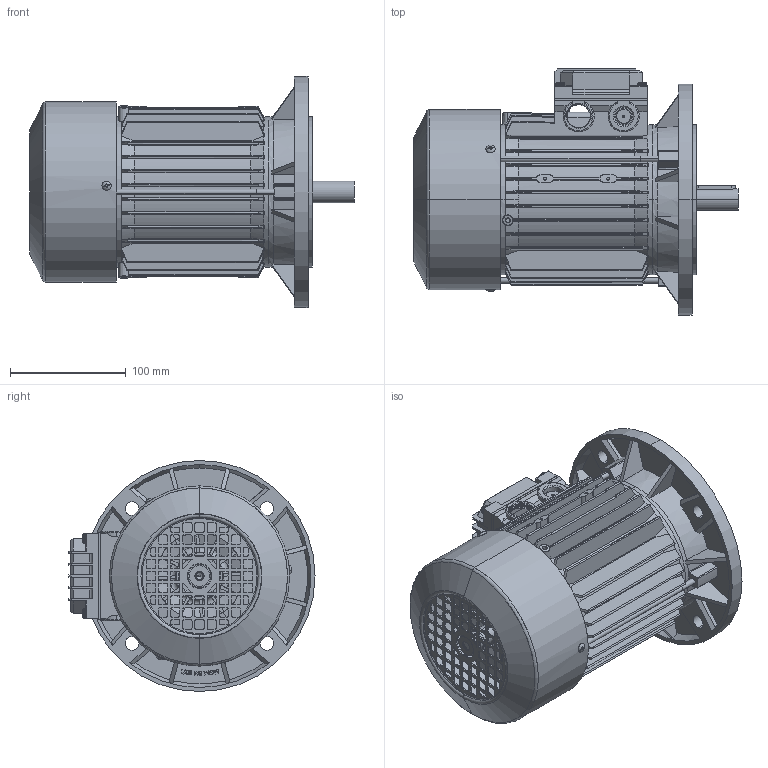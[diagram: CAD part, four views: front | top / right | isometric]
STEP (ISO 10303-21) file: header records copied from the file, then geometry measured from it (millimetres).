
FILE_DESCRIPTION (( 'STEP AP214' ), '1' );
FILE_NAME ('M24DB0010.STEP', '2019-01-31T17:01:52', ( '' ), ( '' ), 'SwSTEP 2.0', 'SolidWorks 2018', '' );
FILE_SCHEMA (( 'AUTOMOTIVE_DESIGN' ));
Length unit declared in the file: millimetre
Products named in the file (13): Guarnizione Scatola Singola 63-71-80; Vite per coperchio morsettiera; Coperchio per Scatola Singola 63-71-80 - DBAN0095; Vite testa rotonda M3; Cuffia SM 80; Chiavetta 80; Albero SM 80; Tirante SM 80; Scudo Lato Comando B3 BA-BM 80 - DCAD0094; Scudo a flangia B5 Fi 200 BA-BM 80; Carcassa 80 B5; M24DB0010; Coperchio per Scatola Singola 63-71-80 con viti
Assembly tree (19 placements, depth 3):
  M24DB0010
    Carcassa 80 B5
    Scudo a flangia B5 Fi 200 BA-BM 80
    Scudo Lato Comando B3 BA-BM 80 - DCAD0094
    Tirante SM 80  x3
    Albero SM 80
    Chiavetta 80
    Cuffia SM 80
    Vite testa rotonda M3  x3
    Coperchio per Scatola Singola 63-71-80 con viti
      Coperchio per Scatola Singola 63-71-80 - DBAN0095
      Vite per coperchio morsettiera  x4
      Guarnizione Scatola Singola 63-71-80
Bounding box: 281 x 213 x 200 mm (x, y, z)
Volume: 870424.1 mm3; surface area: 560457.5 mm2
Topology: 21 solids, 21 shells, 2772 faces, 7569 edges, 4896 vertices
Faces by surface type: plane 1094, cylinder 901, torus 319, cone 272, bspline 180, sphere 6
Entity records: 99287 total; most frequent: CARTESIAN_POINT 38108, ORIENTED_EDGE 13532, DIRECTION 11627, EDGE_CURVE 6766, VERTEX_POINT 4414, AXIS2_PLACEMENT_3D 4317, VECTOR 2993, LINE 2993
